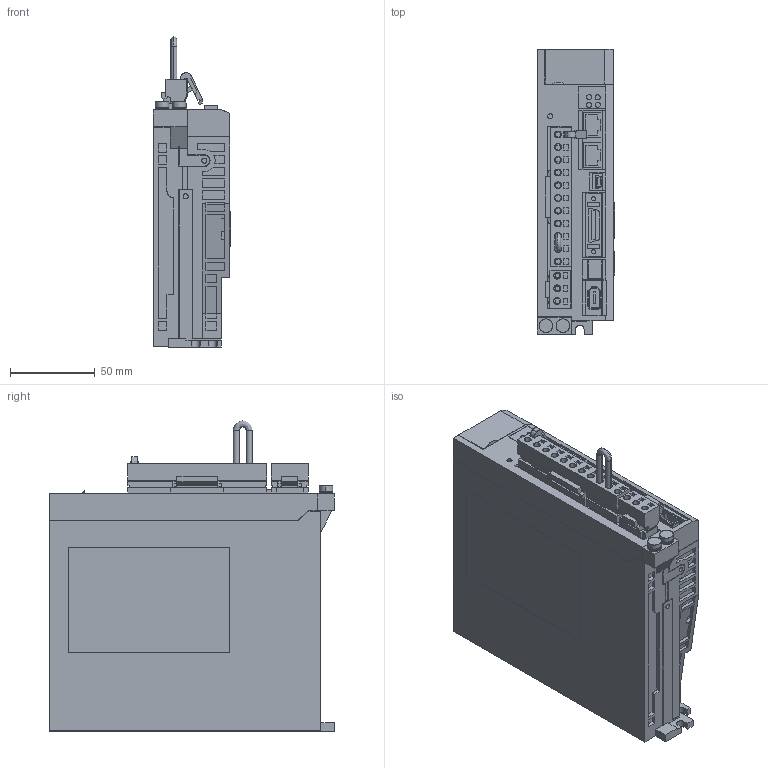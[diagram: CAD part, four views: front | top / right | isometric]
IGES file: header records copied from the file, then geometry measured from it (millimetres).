
Start section: SolidWorks IGES file using analytic representation for surfaces
Global section: file name: D:\YASKAWA\sgd7s_r90aa0a.IGS; native system: SolidWorks 2006 by SolidWorks Corporation; preprocessor: SolidWorks 2006 by SolidWorks Corporation; author: yamanouchi; date: 150121.141526; units: millimetre
Bounding box: 45.5 x 168 x 183 mm (x, y, z)
Surface area: 136199.2 mm2 (no closed solid volume)
Topology: 0 solids, 0 shells, 1718 faces, 13091 edges, 13091 vertices
Faces by surface type: bspline 1562, revolution 156
